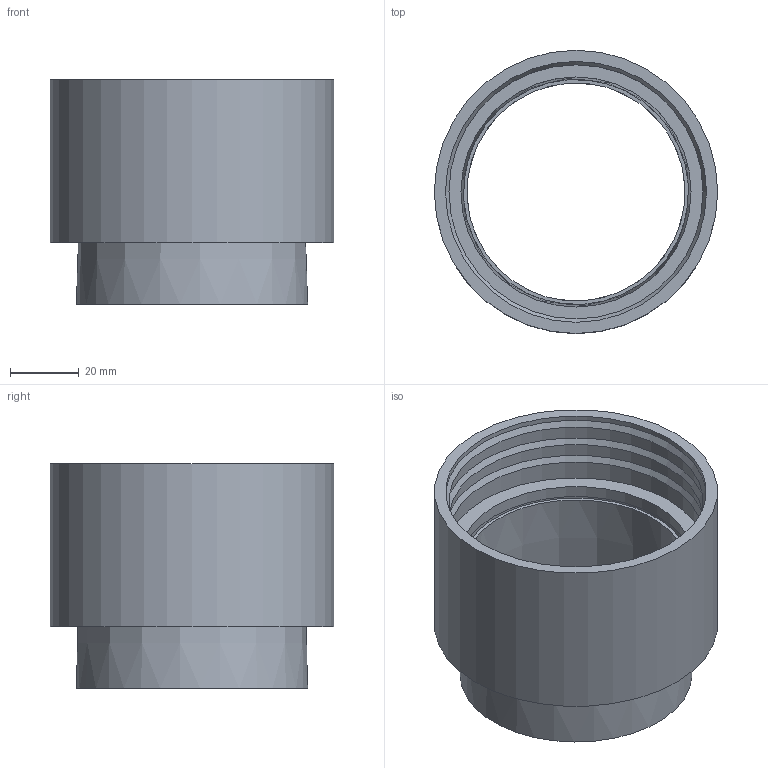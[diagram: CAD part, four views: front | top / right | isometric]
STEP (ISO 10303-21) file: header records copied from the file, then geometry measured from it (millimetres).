
FILE_DESCRIPTION(/* description */ (''),/* implementation_level */ '2;1');
FILE_NAME(/* name */ 'Z:\Geberit\Export\NewStep\359141.stp',/* time_stamp */ '2014-04-01T20:54:58+02:00',/* author */ ('ML'),/* organization */ (''),/* preprocessor_version */ 'ST-DEVELOPER v15.2',/* originating_system */ 'Autodesk Inventor 2014',/* authorisation */ '');
FILE_SCHEMA (('AUTOMOTIVE_DESIGN { 1 0 10303 214 3 1 1 }'));
Length unit declared in the file: millimetre
Products named in the file (3): 887357; 359234; 359141
Bounding box: 82.5 x 82.5 x 65.5 mm (x, y, z)
Volume: 59132.6 mm3; surface area: 45588.5 mm2
Topology: 2 solids, 2 shells, 30 faces, 48 edges, 30 vertices
Faces by surface type: plane 12, cylinder 10, cone 8
Full cylindrical faces by diameter (mm): 67 x1, 73 x4, 76 x4, 82.5 x1
Entity records: 709 total; most frequent: DIRECTION 130, CARTESIAN_POINT 95, AXIS2_PLACEMENT_3D 65, EDGE_LOOP 60, ORIENTED_EDGE 60, FACE_BOUND 37, STYLED_ITEM 32, CIRCLE 30
